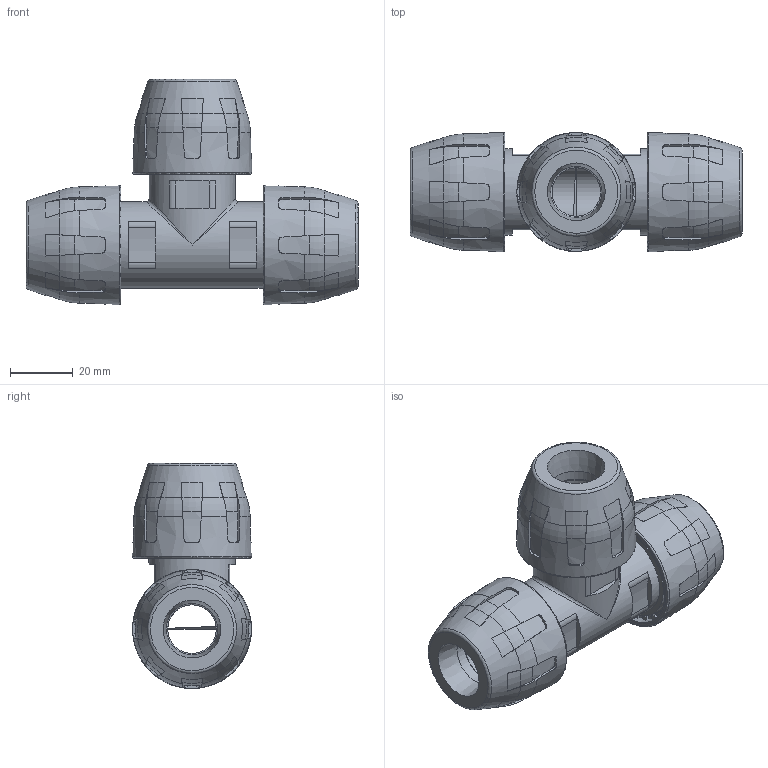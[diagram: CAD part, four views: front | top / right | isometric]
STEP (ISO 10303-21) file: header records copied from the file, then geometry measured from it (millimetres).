
FILE_DESCRIPTION( ( 'STEP AP214' ), '1' );
FILE_NAME( ' ', ' ', ( ' ' ), ( ' ' ), 'PSStep 11.0', 'VISI 17.0', ' ' );
FILE_SCHEMA( ( 'AUTOMOTIVE_DESIGN { 1 0 10303 214 1 1 1 1 }' ) );
Length unit declared in the file: millimetre
Products named in the file (4): 1; 2; 3; 4
Bounding box: 106.2 x 38.1 x 72.06 mm (x, y, z)
Volume: 90765.2 mm3; surface area: 40684.8 mm2
Topology: 4 solids, 4 shells, 582 faces, 1648 edges, 1091 vertices
Faces by surface type: plane 291, cone 129, cylinder 94, bspline 50, torus 18
Full cylindrical faces by diameter (mm): 15.5 x2, 16.5 x6, 27.6 x5, 28.5 x6, 28.9 x3, 31 x3, 34.736 x3
Entity records: 25287 total; most frequent: CARTESIAN_POINT 6636, ORIENTED_EDGE 3066, DIRECTION 2722, EDGE_CURVE 1533, AXIS2_PLACEMENT_3D 1181, VERTEX_POINT 1051, EDGE_LOOP 684, FACE_OUTER_BOUND 628
